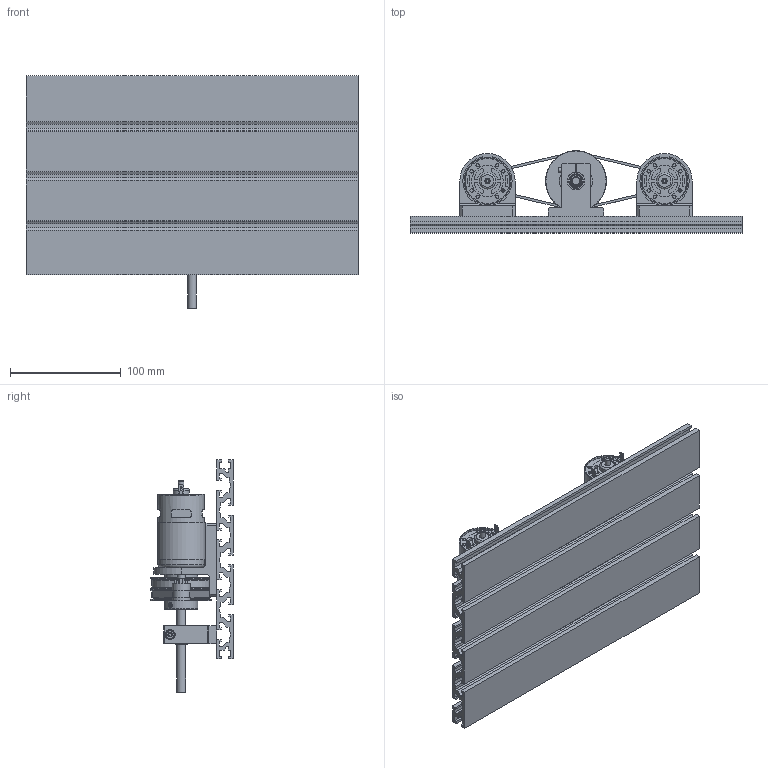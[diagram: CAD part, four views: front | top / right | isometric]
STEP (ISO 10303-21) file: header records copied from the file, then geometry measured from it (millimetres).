
FILE_DESCRIPTION(/* description */ (''),/* implementation_level */ '2;1');
FILE_NAME(/* name */ 'Assieme_dual_775.stp',/* time_stamp */ '2024-12-22T10:18:09+01:00',/* author */ ('R5800u'),/* organization */ (''),/* preprocessor_version */ 'ST-DEVELOPER v20',/* originating_system */ 'Autodesk Inventor 2025',/* authorisation */ '');
FILE_SCHEMA (('AUTOMOTIVE_DESIGN { 1 0 10303 214 3 1 1 }'));
Length unit declared in the file: millimetre
Products named in the file (16): Assieme1; 775; GT2_80T_8mm_Bore_Pulley_for_10mm_Belt; piano profilato; Pieza_polea_dentada; supporto_cuscinetti; %3% BS 290 - SKF 618/8; albero_8mm; blocco_775; Trasmissione cinghie sincrone; Cinghia sincrona; cinghia1; AS 1420 - 1973 - M4 x 25; AS 1112 - M4  Tipo 5; AS 1420 - 1973 - M4 x 14; UNI 7435-75 - 8
Assembly tree (30 placements, depth 3):
  Assieme1
    775  x2
    GT2_80T_8mm_Bore_Pulley_for_10mm_Belt  x2
    piano profilato
    Pieza_polea_dentada  x2
    supporto_cuscinetti  x2
    %3% BS 290 - SKF 618/8  x4
    albero_8mm
    blocco_775  x2
    Trasmissione cinghie sincrone
      Cinghia sincrona
    cinghia1  x2
    AS 1420 - 1973 - M4 x 25  x2
    AS 1112 - M4  Tipo 5  x2
    AS 1420 - 1973 - M4 x 14  x4
    UNI 7435-75 - 8  x2
Bounding box: 300 x 74.5 x 210 mm (x, y, z)
Volume: 771069.7 mm3; surface area: 371278 mm2
Topology: 54 solids, 54 shells, 2322 faces, 6628 edges, 4406 vertices
Faces by surface type: cylinder 1499, plane 612, torus 100, cone 63, sphere 32, bspline 16
Full cylindrical faces by diameter (mm): 1.2 x4, 3 x18, 3.242 x6, 3.5 x52, 4 x10, 4.042 x4, 4.258 x58, 4.5 x12, 5 x6, 6.8 x1, 7 x7, 8 x9, 9 x4, 10.56 x8, 13.44 x8, 14.5 x2, 16 x8, 17.4 x2, 20 x2, 28.5 x2, 30 x2, 40.5 x2, 42 x2, 55 x4
Entity records: 48044 total; most frequent: CARTESIAN_POINT 15264, DIRECTION 6992, ORIENTED_EDGE 6738, EDGE_CURVE 3369, AXIS2_PLACEMENT_3D 2690, VERTEX_POINT 2253, LINE 1612, VECTOR 1612
